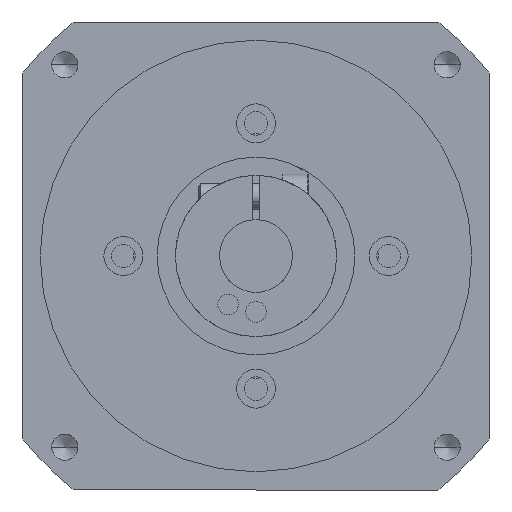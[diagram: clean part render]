
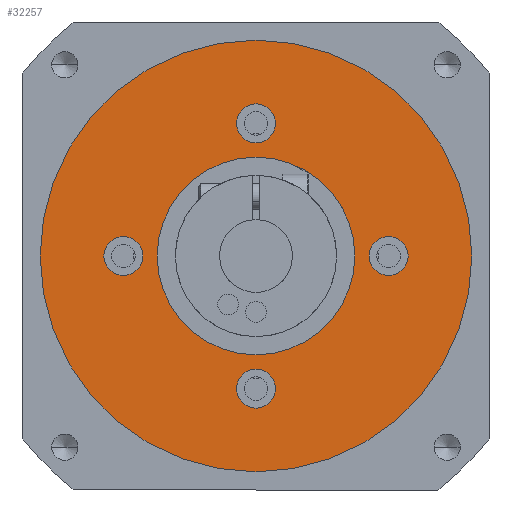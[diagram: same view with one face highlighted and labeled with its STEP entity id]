
A CAD part, front view. The second image highlights one B-rep face of the part: STEP entity #32257.
In plain terms, the highlighted planar face has unit normal (0, -1, 0) as drawn and (0, 0, -1) by its records, which use the part's own axes.
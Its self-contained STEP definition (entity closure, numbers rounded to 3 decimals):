
#310 = DIRECTION ( 'NONE',  ( 0., 0., 1. ) ) ;
#814 = DIRECTION ( 'NONE',  ( 0., 0., 1. ) ) ;
#2035 = ORIENTED_EDGE ( 'NONE', *, *, #6874, .T. ) ;
#2081 = DIRECTION ( 'NONE',  ( 0., 0., 1. ) ) ;
#2617 = AXIS2_PLACEMENT_3D ( 'NONE', #19676, #4105, #22295 ) ;
#3163 = DIRECTION ( 'NONE',  ( 0., 0., 1. ) ) ;
#3198 = CARTESIAN_POINT ( 'NONE',  ( 25.5, -3.75, -21.5 ) ) ;
#3232 = DIRECTION ( 'NONE',  ( 0., 0., 1. ) ) ;
#3341 = FACE_BOUND ( 'NONE', #32150, .T. ) ;
#3794 = EDGE_CURVE ( 'NONE', #12834, #11153, #5649, .T. ) ;
#4105 = DIRECTION ( 'NONE',  ( 0., 0., 1. ) ) ;
#4344 = EDGE_CURVE ( 'NONE', #27253, #22514, #33201, .T. ) ;
#4571 = EDGE_CURVE ( 'NONE', #29169, #5809, #29176, .T. ) ;
#5649 = CIRCLE ( 'NONE', #15965, 3.75 ) ;
#5686 = DIRECTION ( 'NONE',  ( 0., 0., -1. ) ) ;
#5809 = VERTEX_POINT ( 'NONE', #3198 ) ;
#6019 = CIRCLE ( 'NONE', #2617, 3.75 ) ;
#6280 = ORIENTED_EDGE ( 'NONE', *, *, #4571, .T. ) ;
#6553 = CIRCLE ( 'NONE', #7262, 41.5 ) ;
#6635 = DIRECTION ( 'NONE',  ( 0., 0., -1. ) ) ;
#6831 = CIRCLE ( 'NONE', #18286, 19. ) ;
#6874 = EDGE_CURVE ( 'NONE', #5809, #29169, #18510, .T. ) ;
#7262 = AXIS2_PLACEMENT_3D ( 'NONE', #21259, #5686, #23853 ) ;
#7582 = AXIS2_PLACEMENT_3D ( 'NONE', #22757, #12408, #30549 ) ;
#7768 = EDGE_LOOP ( 'NONE', ( #8584, #32075 ) ) ;
#7873 = VERTEX_POINT ( 'NONE', #16466 ) ;
#8348 = VERTEX_POINT ( 'NONE', #13023 ) ;
#8483 = DIRECTION ( 'NONE',  ( 0., 0., 1. ) ) ;
#8537 = CARTESIAN_POINT ( 'NONE',  ( 0., -21.75, -21.5 ) ) ;
#8584 = ORIENTED_EDGE ( 'NONE', *, *, #32120, .T. ) ;
#9007 = DIRECTION ( 'NONE',  ( 0., 0., 1. ) ) ;
#9074 = VERTEX_POINT ( 'NONE', #27332 ) ;
#9234 = ORIENTED_EDGE ( 'NONE', *, *, #3794, .T. ) ;
#9705 = ORIENTED_EDGE ( 'NONE', *, *, #11746, .T. ) ;
#10056 = CARTESIAN_POINT ( 'NONE',  ( -25.5, 3.75, -21.5 ) ) ;
#10078 = CARTESIAN_POINT ( 'NONE',  ( 0., 25.5, -21.5 ) ) ;
#10261 = FACE_OUTER_BOUND ( 'NONE', #7768, .T. ) ;
#10270 = CARTESIAN_POINT ( 'NONE',  ( 25.5, 3.75, -21.5 ) ) ;
#10284 = CARTESIAN_POINT ( 'NONE',  ( 0., 21.75, -21.5 ) ) ;
#11153 = VERTEX_POINT ( 'NONE', #21977 ) ;
#11249 = AXIS2_PLACEMENT_3D ( 'NONE', #27340, #11827, #29941 ) ;
#11746 = EDGE_CURVE ( 'NONE', #13903, #15019, #6019, .T. ) ;
#11827 = DIRECTION ( 'NONE',  ( 0., 0., 1. ) ) ;
#12245 = CARTESIAN_POINT ( 'NONE',  ( 0., -29.25, -21.5 ) ) ;
#12408 = DIRECTION ( 'NONE',  ( 0., 0., -1. ) ) ;
#12636 = DIRECTION ( 'NONE',  ( 0., 1., 0. ) ) ;
#12834 = VERTEX_POINT ( 'NONE', #10284 ) ;
#13023 = CARTESIAN_POINT ( 'NONE',  ( 0., 19., -21.5 ) ) ;
#13343 = EDGE_LOOP ( 'NONE', ( #30885, #9705 ) ) ;
#13487 = ORIENTED_EDGE ( 'NONE', *, *, #16123, .T. ) ;
#13501 = CIRCLE ( 'NONE', #23925, 41.5 ) ;
#13575 = CARTESIAN_POINT ( 'NONE',  ( 0., 41.5, -21.5 ) ) ;
#13903 = VERTEX_POINT ( 'NONE', #12245 ) ;
#14317 = EDGE_CURVE ( 'NONE', #11153, #12834, #30221, .T. ) ;
#14785 = ORIENTED_EDGE ( 'NONE', *, *, #14317, .T. ) ;
#14830 = ORIENTED_EDGE ( 'NONE', *, *, #27490, .T. ) ;
#15019 = VERTEX_POINT ( 'NONE', #8537 ) ;
#15130 = CIRCLE ( 'NONE', #30285, 19. ) ;
#15821 = CARTESIAN_POINT ( 'NONE',  ( -25.5, 0., -21.5 ) ) ;
#15965 = AXIS2_PLACEMENT_3D ( 'NONE', #18737, #3163, #21353 ) ;
#16123 = EDGE_CURVE ( 'NONE', #9074, #8348, #15130, .T. ) ;
#16328 = CARTESIAN_POINT ( 'NONE',  ( 0., 0., -21.5 ) ) ;
#16400 = EDGE_LOOP ( 'NONE', ( #14830, #25814 ) ) ;
#16466 = CARTESIAN_POINT ( 'NONE',  ( 0., -41.5, -21.5 ) ) ;
#17622 = CARTESIAN_POINT ( 'NONE',  ( 25.5, 0., -21.5 ) ) ;
#17963 = FACE_BOUND ( 'NONE', #19803, .T. ) ;
#18286 = AXIS2_PLACEMENT_3D ( 'NONE', #16328, #814, #18976 ) ;
#18468 = DIRECTION ( 'NONE',  ( 0., 1., 0. ) ) ;
#18510 = CIRCLE ( 'NONE', #21932, 3.75 ) ;
#18737 = CARTESIAN_POINT ( 'NONE',  ( 0., 25.5, -21.5 ) ) ;
#18802 = CARTESIAN_POINT ( 'NONE',  ( -25.5, 0., -21.5 ) ) ;
#18976 = DIRECTION ( 'NONE',  ( 0., -1., 0. ) ) ;
#19676 = CARTESIAN_POINT ( 'NONE',  ( 0., -25.5, -21.5 ) ) ;
#19803 = EDGE_LOOP ( 'NONE', ( #14785, #9234 ) ) ;
#20012 = EDGE_CURVE ( 'NONE', #25652, #7873, #6553, .T. ) ;
#20246 = DIRECTION ( 'NONE',  ( 0., 1., 0. ) ) ;
#20553 = AXIS2_PLACEMENT_3D ( 'NONE', #18802, #3232, #21424 ) ;
#20656 = CIRCLE ( 'NONE', #22233, 3.75 ) ;
#21259 = CARTESIAN_POINT ( 'NONE',  ( 0., 0., -21.5 ) ) ;
#21353 = DIRECTION ( 'NONE',  ( 0., 1., 0. ) ) ;
#21424 = DIRECTION ( 'NONE',  ( 0., 1., 0. ) ) ;
#21425 = CIRCLE ( 'NONE', #23241, 3.75 ) ;
#21932 = AXIS2_PLACEMENT_3D ( 'NONE', #17622, #2081, #20246 ) ;
#21977 = CARTESIAN_POINT ( 'NONE',  ( 0., 29.25, -21.5 ) ) ;
#22220 = CARTESIAN_POINT ( 'NONE',  ( 0., 0., -21.5 ) ) ;
#22233 = AXIS2_PLACEMENT_3D ( 'NONE', #15821, #310, #18468 ) ;
#22295 = DIRECTION ( 'NONE',  ( 0., 1., 0. ) ) ;
#22514 = VERTEX_POINT ( 'NONE', #10056 ) ;
#22572 = CARTESIAN_POINT ( 'NONE',  ( -25.5, -3.75, -21.5 ) ) ;
#22757 = CARTESIAN_POINT ( 'NONE',  ( 0., -19., -21.5 ) ) ;
#23241 = AXIS2_PLACEMENT_3D ( 'NONE', #24536, #9007, #27147 ) ;
#23853 = DIRECTION ( 'NONE',  ( 0., -1., 0. ) ) ;
#23925 = AXIS2_PLACEMENT_3D ( 'NONE', #22220, #6635, #24801 ) ;
#24031 = CARTESIAN_POINT ( 'NONE',  ( 0., 0., -21.5 ) ) ;
#24056 = FACE_BOUND ( 'NONE', #13343, .T. ) ;
#24536 = CARTESIAN_POINT ( 'NONE',  ( 0., -25.5, -21.5 ) ) ;
#24786 = EDGE_CURVE ( 'NONE', #15019, #13903, #21425, .T. ) ;
#24801 = DIRECTION ( 'NONE',  ( 0., -1., 0. ) ) ;
#25652 = VERTEX_POINT ( 'NONE', #13575 ) ;
#25661 = FACE_BOUND ( 'NONE', #29958, .T. ) ;
#25814 = ORIENTED_EDGE ( 'NONE', *, *, #4344, .T. ) ;
#26505 = EDGE_CURVE ( 'NONE', #8348, #9074, #6831, .T. ) ;
#26629 = DIRECTION ( 'NONE',  ( 0., -1., 0. ) ) ;
#27147 = DIRECTION ( 'NONE',  ( 0., 1., 0. ) ) ;
#27253 = VERTEX_POINT ( 'NONE', #22572 ) ;
#27332 = CARTESIAN_POINT ( 'NONE',  ( 0., -19., -21.5 ) ) ;
#27340 = CARTESIAN_POINT ( 'NONE',  ( 25.5, 0., -21.5 ) ) ;
#27490 = EDGE_CURVE ( 'NONE', #22514, #27253, #20656, .T. ) ;
#28173 = DIRECTION ( 'NONE',  ( 0., 0., 1. ) ) ;
#28299 = AXIS2_PLACEMENT_3D ( 'NONE', #10078, #28173, #12636 ) ;
#29031 = ORIENTED_EDGE ( 'NONE', *, *, #26505, .T. ) ;
#29169 = VERTEX_POINT ( 'NONE', #10270 ) ;
#29176 = CIRCLE ( 'NONE', #11249, 3.75 ) ;
#29941 = DIRECTION ( 'NONE',  ( 0., 1., 0. ) ) ;
#29958 = EDGE_LOOP ( 'NONE', ( #13487, #29031 ) ) ;
#30111 = FACE_BOUND ( 'NONE', #16400, .T. ) ;
#30221 = CIRCLE ( 'NONE', #28299, 3.75 ) ;
#30285 = AXIS2_PLACEMENT_3D ( 'NONE', #24031, #8483, #26629 ) ;
#30440 = PLANE ( 'NONE',  #7582 ) ;
#30549 = DIRECTION ( 'NONE',  ( 0., 1., 0. ) ) ;
#30885 = ORIENTED_EDGE ( 'NONE', *, *, #24786, .T. ) ;
#32075 = ORIENTED_EDGE ( 'NONE', *, *, #20012, .T. ) ;
#32120 = EDGE_CURVE ( 'NONE', #7873, #25652, #13501, .T. ) ;
#32150 = EDGE_LOOP ( 'NONE', ( #6280, #2035 ) ) ;
#32257 = ADVANCED_FACE ( 'NONE', ( #10261, #25661, #17963, #3341, #24056, #30111 ), #30440, .T. ) ;
#33201 = CIRCLE ( 'NONE', #20553, 3.75 ) ;
